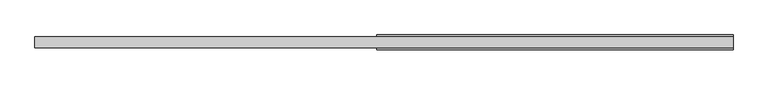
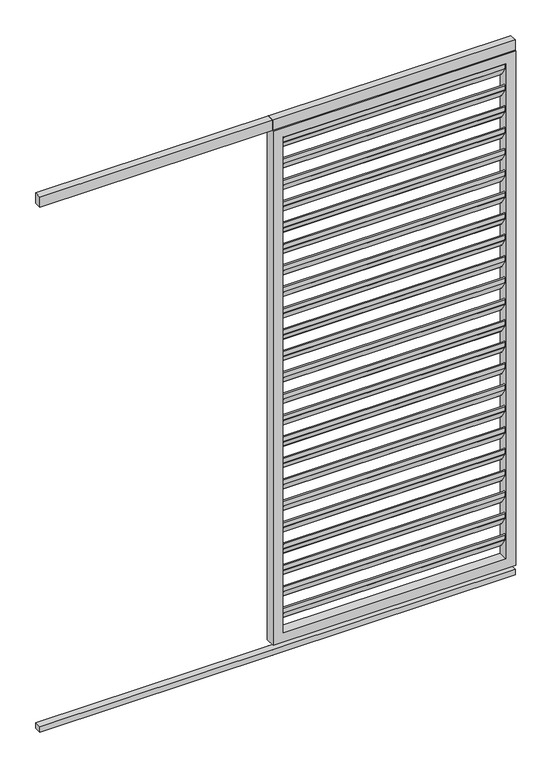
"""IFC4 building model written with IfcOpenShell, lengths in millimetres: proxy geometry, Renson_Camargue_Loggia_Paro_Aluminium : Renson_Camargue_Loggia_Paro_Aluminium."""

from ifc_helpers import new_model, si_unit, point, frame, frame_2d, origin, origin_with_axes, place, context, project, spatial, polyline, circle_curve, trimmed, segment, composite_curve, outline, extrude, source, transform, mapped, element, save


def generic_models_a1f2db59(model_context):
    return source(origin(), model_context, "Body", "SweptSolid", [
        extrude(outline(composite_curve([segment(polyline([(-10.1515804, 2164.292689), (14.3324079, 2126.5906532), (14.3324079, 2107.3412281)]), True, "CONTINUOUS"), segment(trimmed(circle_curve(frame_2d((11.3324079, 2107.3412281)), 3.0), [point((14.3324079, 2107.3412281))], [point((8.8163962, 2105.707311))], False, "CARTESIAN"), True, "CONTINUOUS"), segment(polyline([(8.8163962, 2105.707311), (-15.1836038, 2142.6640702)]), True, "CONTINUOUS"), segment(trimmed(circle_curve(frame_2d((-12.6675921, 2144.2979873)), 3.0), [point((-15.1836038, 2142.6640702))], [point((-15.6675921, 2144.2979873))], False, "CARTESIAN"), True, "CONTINUOUS"), segment(polyline([(-15.6675921, 2144.2979873), (-15.6675921, 2162.6587719)]), True, "CONTINUOUS"), segment(trimmed(circle_curve(frame_2d((-12.6675921, 2162.6587719)), 3.0), [point((-15.6675921, 2162.6587719))], [point((-10.1515804, 2164.292689))], False, "CARTESIAN"), True, "CONTINUOUS")], self_intersect=False)), frame((-442.5, 0.0, 0.0), z_axis=(1.0, 0.0, 0.0), x_axis=(0.0, 1.0, 0.0)), (0.0, 0.0, 1.0), 885.0),
        extrude(outline(composite_curve([segment(polyline([(-10.1515804, 2074.292689), (14.3324079, 2036.5906532), (14.3324079, 2017.3412281)]), True, "CONTINUOUS"), segment(trimmed(circle_curve(frame_2d((11.3324079, 2017.3412281)), 3.0), [point((14.3324079, 2017.3412281))], [point((8.8163962, 2015.707311))], False, "CARTESIAN"), True, "CONTINUOUS"), segment(polyline([(8.8163962, 2015.707311), (-15.1836038, 2052.6640702)]), True, "CONTINUOUS"), segment(trimmed(circle_curve(frame_2d((-12.6675921, 2054.2979873)), 3.0), [point((-15.1836038, 2052.6640702))], [point((-15.6675921, 2054.2979873))], False, "CARTESIAN"), True, "CONTINUOUS"), segment(polyline([(-15.6675921, 2054.2979873), (-15.6675921, 2072.6587719)]), True, "CONTINUOUS"), segment(trimmed(circle_curve(frame_2d((-12.6675921, 2072.6587719)), 3.0), [point((-15.6675921, 2072.6587719))], [point((-10.1515804, 2074.292689))], False, "CARTESIAN"), True, "CONTINUOUS")], self_intersect=False)), frame((-442.5, 0.0, 0.0), z_axis=(1.0, 0.0, 0.0), x_axis=(0.0, 1.0, 0.0)), (0.0, 0.0, 1.0), 885.0),
        extrude(outline(composite_curve([segment(polyline([(-10.1515804, 1984.292689), (14.3324079, 1946.5906532), (14.3324079, 1927.3412281)]), True, "CONTINUOUS"), segment(trimmed(circle_curve(frame_2d((11.3324079, 1927.3412281)), 3.0), [point((14.3324079, 1927.3412281))], [point((8.8163962, 1925.707311))], False, "CARTESIAN"), True, "CONTINUOUS"), segment(polyline([(8.8163962, 1925.707311), (-15.1836038, 1962.6640702)]), True, "CONTINUOUS"), segment(trimmed(circle_curve(frame_2d((-12.6675921, 1964.2979873)), 3.0), [point((-15.1836038, 1962.6640702))], [point((-15.6675921, 1964.2979873))], False, "CARTESIAN"), True, "CONTINUOUS"), segment(polyline([(-15.6675921, 1964.2979873), (-15.6675921, 1982.6587719)]), True, "CONTINUOUS"), segment(trimmed(circle_curve(frame_2d((-12.6675921, 1982.6587719)), 3.0), [point((-15.6675921, 1982.6587719))], [point((-10.1515804, 1984.292689))], False, "CARTESIAN"), True, "CONTINUOUS")], self_intersect=False)), frame((-442.5, 0.0, 0.0), z_axis=(1.0, 0.0, 0.0), x_axis=(0.0, 1.0, 0.0)), (0.0, 0.0, 1.0), 885.0),
        extrude(outline(composite_curve([segment(polyline([(-10.1515804, 1894.292689), (14.3324079, 1856.5906532), (14.3324079, 1837.3412281)]), True, "CONTINUOUS"), segment(trimmed(circle_curve(frame_2d((11.3324079, 1837.3412281)), 3.0), [point((14.3324079, 1837.3412281))], [point((8.8163962, 1835.707311))], False, "CARTESIAN"), True, "CONTINUOUS"), segment(polyline([(8.8163962, 1835.707311), (-15.1836038, 1872.6640702)]), True, "CONTINUOUS"), segment(trimmed(circle_curve(frame_2d((-12.6675921, 1874.2979873)), 3.0), [point((-15.1836038, 1872.6640702))], [point((-15.6675921, 1874.2979873))], False, "CARTESIAN"), True, "CONTINUOUS"), segment(polyline([(-15.6675921, 1874.2979873), (-15.6675921, 1892.6587719)]), True, "CONTINUOUS"), segment(trimmed(circle_curve(frame_2d((-12.6675921, 1892.6587719)), 3.0), [point((-15.6675921, 1892.6587719))], [point((-10.1515804, 1894.292689))], False, "CARTESIAN"), True, "CONTINUOUS")], self_intersect=False)), frame((-442.5, 0.0, 0.0), z_axis=(1.0, 0.0, 0.0), x_axis=(0.0, 1.0, 0.0)), (0.0, 0.0, 1.0), 885.0),
        extrude(outline(composite_curve([segment(polyline([(-10.1515804, 1804.292689), (14.3324079, 1766.5906532), (14.3324079, 1747.3412281)]), True, "CONTINUOUS"), segment(trimmed(circle_curve(frame_2d((11.3324079, 1747.3412281)), 3.0), [point((14.3324079, 1747.3412281))], [point((8.8163962, 1745.707311))], False, "CARTESIAN"), True, "CONTINUOUS"), segment(polyline([(8.8163962, 1745.707311), (-15.1836038, 1782.6640702)]), True, "CONTINUOUS"), segment(trimmed(circle_curve(frame_2d((-12.6675921, 1784.2979873)), 3.0), [point((-15.1836038, 1782.6640702))], [point((-15.6675921, 1784.2979873))], False, "CARTESIAN"), True, "CONTINUOUS"), segment(polyline([(-15.6675921, 1784.2979873), (-15.6675921, 1802.6587719)]), True, "CONTINUOUS"), segment(trimmed(circle_curve(frame_2d((-12.6675921, 1802.6587719)), 3.0), [point((-15.6675921, 1802.6587719))], [point((-10.1515804, 1804.292689))], False, "CARTESIAN"), True, "CONTINUOUS")], self_intersect=False)), frame((-442.5, 0.0, 0.0), z_axis=(1.0, 0.0, 0.0), x_axis=(0.0, 1.0, 0.0)), (0.0, 0.0, 1.0), 885.0),
        extrude(outline(composite_curve([segment(polyline([(-10.1515804, 1714.292689), (14.3324079, 1676.5906532), (14.3324079, 1657.3412281)]), True, "CONTINUOUS"), segment(trimmed(circle_curve(frame_2d((11.3324079, 1657.3412281)), 3.0), [point((14.3324079, 1657.3412281))], [point((8.8163962, 1655.707311))], False, "CARTESIAN"), True, "CONTINUOUS"), segment(polyline([(8.8163962, 1655.707311), (-15.1836038, 1692.6640702)]), True, "CONTINUOUS"), segment(trimmed(circle_curve(frame_2d((-12.6675921, 1694.2979873)), 3.0), [point((-15.1836038, 1692.6640702))], [point((-15.6675921, 1694.2979873))], False, "CARTESIAN"), True, "CONTINUOUS"), segment(polyline([(-15.6675921, 1694.2979873), (-15.6675921, 1712.6587719)]), True, "CONTINUOUS"), segment(trimmed(circle_curve(frame_2d((-12.6675921, 1712.6587719)), 3.0), [point((-15.6675921, 1712.6587719))], [point((-10.1515804, 1714.292689))], False, "CARTESIAN"), True, "CONTINUOUS")], self_intersect=False)), frame((-442.5, 0.0, 0.0), z_axis=(1.0, 0.0, 0.0), x_axis=(0.0, 1.0, 0.0)), (0.0, 0.0, 1.0), 885.0),
        extrude(outline(composite_curve([segment(polyline([(-10.1515804, 1624.292689), (14.3324079, 1586.5906532), (14.3324079, 1567.3412281)]), True, "CONTINUOUS"), segment(trimmed(circle_curve(frame_2d((11.3324079, 1567.3412281)), 3.0), [point((14.3324079, 1567.3412281))], [point((8.8163962, 1565.707311))], False, "CARTESIAN"), True, "CONTINUOUS"), segment(polyline([(8.8163962, 1565.707311), (-15.1836038, 1602.6640702)]), True, "CONTINUOUS"), segment(trimmed(circle_curve(frame_2d((-12.6675921, 1604.2979873)), 3.0), [point((-15.1836038, 1602.6640702))], [point((-15.6675921, 1604.2979873))], False, "CARTESIAN"), True, "CONTINUOUS"), segment(polyline([(-15.6675921, 1604.2979873), (-15.6675921, 1622.6587719)]), True, "CONTINUOUS"), segment(trimmed(circle_curve(frame_2d((-12.6675921, 1622.6587719)), 3.0), [point((-15.6675921, 1622.6587719))], [point((-10.1515804, 1624.292689))], False, "CARTESIAN"), True, "CONTINUOUS")], self_intersect=False)), frame((-442.5, 0.0, 0.0), z_axis=(1.0, 0.0, 0.0), x_axis=(0.0, 1.0, 0.0)), (0.0, 0.0, 1.0), 885.0),
        extrude(outline(composite_curve([segment(polyline([(-10.1515804, 1534.292689), (14.3324079, 1496.5906532), (14.3324079, 1477.3412281)]), True, "CONTINUOUS"), segment(trimmed(circle_curve(frame_2d((11.3324079, 1477.3412281)), 3.0), [point((14.3324079, 1477.3412281))], [point((8.8163962, 1475.707311))], False, "CARTESIAN"), True, "CONTINUOUS"), segment(polyline([(8.8163962, 1475.707311), (-15.1836038, 1512.6640702)]), True, "CONTINUOUS"), segment(trimmed(circle_curve(frame_2d((-12.6675921, 1514.2979873)), 3.0), [point((-15.1836038, 1512.6640702))], [point((-15.6675921, 1514.2979873))], False, "CARTESIAN"), True, "CONTINUOUS"), segment(polyline([(-15.6675921, 1514.2979873), (-15.6675921, 1532.6587719)]), True, "CONTINUOUS"), segment(trimmed(circle_curve(frame_2d((-12.6675921, 1532.6587719)), 3.0), [point((-15.6675921, 1532.6587719))], [point((-10.1515804, 1534.292689))], False, "CARTESIAN"), True, "CONTINUOUS")], self_intersect=False)), frame((-442.5, 0.0, 0.0), z_axis=(1.0, 0.0, 0.0), x_axis=(0.0, 1.0, 0.0)), (0.0, 0.0, 1.0), 885.0),
        extrude(outline(composite_curve([segment(polyline([(-10.1515804, 1444.292689), (14.3324079, 1406.5906532), (14.3324079, 1387.3412281)]), True, "CONTINUOUS"), segment(trimmed(circle_curve(frame_2d((11.3324079, 1387.3412281)), 3.0), [point((14.3324079, 1387.3412281))], [point((8.8163962, 1385.707311))], False, "CARTESIAN"), True, "CONTINUOUS"), segment(polyline([(8.8163962, 1385.707311), (-15.1836038, 1422.6640702)]), True, "CONTINUOUS"), segment(trimmed(circle_curve(frame_2d((-12.6675921, 1424.2979873)), 3.0), [point((-15.1836038, 1422.6640702))], [point((-15.6675921, 1424.2979873))], False, "CARTESIAN"), True, "CONTINUOUS"), segment(polyline([(-15.6675921, 1424.2979873), (-15.6675921, 1442.6587719)]), True, "CONTINUOUS"), segment(trimmed(circle_curve(frame_2d((-12.6675921, 1442.6587719)), 3.0), [point((-15.6675921, 1442.6587719))], [point((-10.1515804, 1444.292689))], False, "CARTESIAN"), True, "CONTINUOUS")], self_intersect=False)), frame((-442.5, 0.0, 0.0), z_axis=(1.0, 0.0, 0.0), x_axis=(0.0, 1.0, 0.0)), (0.0, 0.0, 1.0), 885.0),
        extrude(outline(composite_curve([segment(polyline([(-10.1515804, 1354.292689), (14.3324079, 1316.5906532), (14.3324079, 1297.3412281)]), True, "CONTINUOUS"), segment(trimmed(circle_curve(frame_2d((11.3324079, 1297.3412281)), 3.0), [point((14.3324079, 1297.3412281))], [point((8.8163962, 1295.707311))], False, "CARTESIAN"), True, "CONTINUOUS"), segment(polyline([(8.8163962, 1295.707311), (-15.1836038, 1332.6640702)]), True, "CONTINUOUS"), segment(trimmed(circle_curve(frame_2d((-12.6675921, 1334.2979873)), 3.0), [point((-15.1836038, 1332.6640702))], [point((-15.6675921, 1334.2979873))], False, "CARTESIAN"), True, "CONTINUOUS"), segment(polyline([(-15.6675921, 1334.2979873), (-15.6675921, 1352.6587719)]), True, "CONTINUOUS"), segment(trimmed(circle_curve(frame_2d((-12.6675921, 1352.6587719)), 3.0), [point((-15.6675921, 1352.6587719))], [point((-10.1515804, 1354.292689))], False, "CARTESIAN"), True, "CONTINUOUS")], self_intersect=False)), frame((-442.5, 0.0, 0.0), z_axis=(1.0, 0.0, 0.0), x_axis=(0.0, 1.0, 0.0)), (0.0, 0.0, 1.0), 885.0),
        extrude(outline(composite_curve([segment(polyline([(-10.1515804, 1264.292689), (14.3324079, 1226.5906532), (14.3324079, 1207.3412281)]), True, "CONTINUOUS"), segment(trimmed(circle_curve(frame_2d((11.3324079, 1207.3412281)), 3.0), [point((14.3324079, 1207.3412281))], [point((8.8163962, 1205.707311))], False, "CARTESIAN"), True, "CONTINUOUS"), segment(polyline([(8.8163962, 1205.707311), (-15.1836038, 1242.6640702)]), True, "CONTINUOUS"), segment(trimmed(circle_curve(frame_2d((-12.6675921, 1244.2979873)), 3.0), [point((-15.1836038, 1242.6640702))], [point((-15.6675921, 1244.2979873))], False, "CARTESIAN"), True, "CONTINUOUS"), segment(polyline([(-15.6675921, 1244.2979873), (-15.6675921, 1262.6587719)]), True, "CONTINUOUS"), segment(trimmed(circle_curve(frame_2d((-12.6675921, 1262.6587719)), 3.0), [point((-15.6675921, 1262.6587719))], [point((-10.1515804, 1264.292689))], False, "CARTESIAN"), True, "CONTINUOUS")], self_intersect=False)), frame((-442.5, 0.0, 0.0), z_axis=(1.0, 0.0, 0.0), x_axis=(0.0, 1.0, 0.0)), (0.0, 0.0, 1.0), 885.0),
        extrude(outline(composite_curve([segment(polyline([(-10.1515804, 1174.292689), (14.3324079, 1136.5906532), (14.3324079, 1117.3412281)]), True, "CONTINUOUS"), segment(trimmed(circle_curve(frame_2d((11.3324079, 1117.3412281)), 3.0), [point((14.3324079, 1117.3412281))], [point((8.8163962, 1115.707311))], False, "CARTESIAN"), True, "CONTINUOUS"), segment(polyline([(8.8163962, 1115.707311), (-15.1836038, 1152.6640702)]), True, "CONTINUOUS"), segment(trimmed(circle_curve(frame_2d((-12.6675921, 1154.2979873)), 3.0), [point((-15.1836038, 1152.6640702))], [point((-15.6675921, 1154.2979873))], False, "CARTESIAN"), True, "CONTINUOUS"), segment(polyline([(-15.6675921, 1154.2979873), (-15.6675921, 1172.6587719)]), True, "CONTINUOUS"), segment(trimmed(circle_curve(frame_2d((-12.6675921, 1172.6587719)), 3.0), [point((-15.6675921, 1172.6587719))], [point((-10.1515804, 1174.292689))], False, "CARTESIAN"), True, "CONTINUOUS")], self_intersect=False)), frame((-442.5, 0.0, 0.0), z_axis=(1.0, 0.0, 0.0), x_axis=(0.0, 1.0, 0.0)), (0.0, 0.0, 1.0), 885.0),
        extrude(outline(composite_curve([segment(polyline([(-10.1515804, 1084.292689), (14.3324079, 1046.5906532), (14.3324079, 1027.3412281)]), True, "CONTINUOUS"), segment(trimmed(circle_curve(frame_2d((11.3324079, 1027.3412281)), 3.0), [point((14.3324079, 1027.3412281))], [point((8.8163962, 1025.707311))], False, "CARTESIAN"), True, "CONTINUOUS"), segment(polyline([(8.8163962, 1025.707311), (-15.1836038, 1062.6640702)]), True, "CONTINUOUS"), segment(trimmed(circle_curve(frame_2d((-12.6675921, 1064.2979873)), 3.0), [point((-15.1836038, 1062.6640702))], [point((-15.6675921, 1064.2979873))], False, "CARTESIAN"), True, "CONTINUOUS"), segment(polyline([(-15.6675921, 1064.2979873), (-15.6675921, 1082.6587719)]), True, "CONTINUOUS"), segment(trimmed(circle_curve(frame_2d((-12.6675921, 1082.6587719)), 3.0), [point((-15.6675921, 1082.6587719))], [point((-10.1515804, 1084.292689))], False, "CARTESIAN"), True, "CONTINUOUS")], self_intersect=False)), frame((-442.5, 0.0, 0.0), z_axis=(1.0, 0.0, 0.0), x_axis=(0.0, 1.0, 0.0)), (0.0, 0.0, 1.0), 885.0),
        extrude(outline(composite_curve([segment(polyline([(-10.1515804, 994.292689), (14.3324079, 956.5906532), (14.3324079, 937.3412281)]), True, "CONTINUOUS"), segment(trimmed(circle_curve(frame_2d((11.3324079, 937.3412281)), 3.0), [point((14.3324079, 937.3412281))], [point((8.8163962, 935.707311))], False, "CARTESIAN"), True, "CONTINUOUS"), segment(polyline([(8.8163962, 935.707311), (-15.1836038, 972.6640702)]), True, "CONTINUOUS"), segment(trimmed(circle_curve(frame_2d((-12.6675921, 974.2979873)), 3.0), [point((-15.1836038, 972.6640702))], [point((-15.6675921, 974.2979873))], False, "CARTESIAN"), True, "CONTINUOUS"), segment(polyline([(-15.6675921, 974.2979873), (-15.6675921, 992.6587719)]), True, "CONTINUOUS"), segment(trimmed(circle_curve(frame_2d((-12.6675921, 992.6587719)), 3.0), [point((-15.6675921, 992.6587719))], [point((-10.1515804, 994.292689))], False, "CARTESIAN"), True, "CONTINUOUS")], self_intersect=False)), frame((-442.5, 0.0, 0.0), z_axis=(1.0, 0.0, 0.0), x_axis=(0.0, 1.0, 0.0)), (0.0, 0.0, 1.0), 885.0),
        extrude(outline(composite_curve([segment(polyline([(-10.1515804, 904.292689), (14.3324079, 866.5906532), (14.3324079, 847.3412281)]), True, "CONTINUOUS"), segment(trimmed(circle_curve(frame_2d((11.3324079, 847.3412281)), 3.0), [point((14.3324079, 847.3412281))], [point((8.8163962, 845.707311))], False, "CARTESIAN"), True, "CONTINUOUS"), segment(polyline([(8.8163962, 845.707311), (-15.1836038, 882.6640702)]), True, "CONTINUOUS"), segment(trimmed(circle_curve(frame_2d((-12.6675921, 884.2979873)), 3.0), [point((-15.1836038, 882.6640702))], [point((-15.6675921, 884.2979873))], False, "CARTESIAN"), True, "CONTINUOUS"), segment(polyline([(-15.6675921, 884.2979873), (-15.6675921, 902.6587719)]), True, "CONTINUOUS"), segment(trimmed(circle_curve(frame_2d((-12.6675921, 902.6587719)), 3.0), [point((-15.6675921, 902.6587719))], [point((-10.1515804, 904.292689))], False, "CARTESIAN"), True, "CONTINUOUS")], self_intersect=False)), frame((-442.5, 0.0, 0.0), z_axis=(1.0, 0.0, 0.0), x_axis=(0.0, 1.0, 0.0)), (0.0, 0.0, 1.0), 885.0),
        extrude(outline(composite_curve([segment(polyline([(-10.1515804, 814.292689), (14.3324079, 776.5906532), (14.3324079, 757.3412281)]), True, "CONTINUOUS"), segment(trimmed(circle_curve(frame_2d((11.3324079, 757.3412281)), 3.0), [point((14.3324079, 757.3412281))], [point((8.8163962, 755.707311))], False, "CARTESIAN"), True, "CONTINUOUS"), segment(polyline([(8.8163962, 755.707311), (-15.1836038, 792.6640702)]), True, "CONTINUOUS"), segment(trimmed(circle_curve(frame_2d((-12.6675921, 794.2979873)), 3.0), [point((-15.1836038, 792.6640702))], [point((-15.6675921, 794.2979873))], False, "CARTESIAN"), True, "CONTINUOUS"), segment(polyline([(-15.6675921, 794.2979873), (-15.6675921, 812.6587719)]), True, "CONTINUOUS"), segment(trimmed(circle_curve(frame_2d((-12.6675921, 812.6587719)), 3.0), [point((-15.6675921, 812.6587719))], [point((-10.1515804, 814.292689))], False, "CARTESIAN"), True, "CONTINUOUS")], self_intersect=False)), frame((-442.5, 0.0, 0.0), z_axis=(1.0, 0.0, 0.0), x_axis=(0.0, 1.0, 0.0)), (0.0, 0.0, 1.0), 885.0),
        extrude(outline(composite_curve([segment(polyline([(-10.1515804, 724.292689), (14.3324079, 686.5906532), (14.3324079, 667.3412281)]), True, "CONTINUOUS"), segment(trimmed(circle_curve(frame_2d((11.3324079, 667.3412281)), 3.0), [point((14.3324079, 667.3412281))], [point((8.8163962, 665.707311))], False, "CARTESIAN"), True, "CONTINUOUS"), segment(polyline([(8.8163962, 665.707311), (-15.1836038, 702.6640702)]), True, "CONTINUOUS"), segment(trimmed(circle_curve(frame_2d((-12.6675921, 704.2979873)), 3.0), [point((-15.1836038, 702.6640702))], [point((-15.6675921, 704.2979873))], False, "CARTESIAN"), True, "CONTINUOUS"), segment(polyline([(-15.6675921, 704.2979873), (-15.6675921, 722.6587719)]), True, "CONTINUOUS"), segment(trimmed(circle_curve(frame_2d((-12.6675921, 722.6587719)), 3.0), [point((-15.6675921, 722.6587719))], [point((-10.1515804, 724.292689))], False, "CARTESIAN"), True, "CONTINUOUS")], self_intersect=False)), frame((-442.5, 0.0, 0.0), z_axis=(1.0, 0.0, 0.0), x_axis=(0.0, 1.0, 0.0)), (0.0, 0.0, 1.0), 885.0),
        extrude(outline(composite_curve([segment(polyline([(-10.1515804, 634.292689), (14.3324079, 596.5906532), (14.3324079, 577.3412281)]), True, "CONTINUOUS"), segment(trimmed(circle_curve(frame_2d((11.3324079, 577.3412281)), 3.0), [point((14.3324079, 577.3412281))], [point((8.8163962, 575.707311))], False, "CARTESIAN"), True, "CONTINUOUS"), segment(polyline([(8.8163962, 575.707311), (-15.1836038, 612.6640702)]), True, "CONTINUOUS"), segment(trimmed(circle_curve(frame_2d((-12.6675921, 614.2979873)), 3.0), [point((-15.1836038, 612.6640702))], [point((-15.6675921, 614.2979873))], False, "CARTESIAN"), True, "CONTINUOUS"), segment(polyline([(-15.6675921, 614.2979873), (-15.6675921, 632.6587719)]), True, "CONTINUOUS"), segment(trimmed(circle_curve(frame_2d((-12.6675921, 632.6587719)), 3.0), [point((-15.6675921, 632.6587719))], [point((-10.1515804, 634.292689))], False, "CARTESIAN"), True, "CONTINUOUS")], self_intersect=False)), frame((-442.5, 0.0, 0.0), z_axis=(1.0, 0.0, 0.0), x_axis=(0.0, 1.0, 0.0)), (0.0, 0.0, 1.0), 885.0),
        extrude(outline(composite_curve([segment(polyline([(-10.1515804, 544.292689), (14.3324079, 506.5906532), (14.3324079, 487.3412281)]), True, "CONTINUOUS"), segment(trimmed(circle_curve(frame_2d((11.3324079, 487.3412281)), 3.0), [point((14.3324079, 487.3412281))], [point((8.8163962, 485.707311))], False, "CARTESIAN"), True, "CONTINUOUS"), segment(polyline([(8.8163962, 485.707311), (-15.1836038, 522.6640702)]), True, "CONTINUOUS"), segment(trimmed(circle_curve(frame_2d((-12.6675921, 524.2979873)), 3.0), [point((-15.1836038, 522.6640702))], [point((-15.6675921, 524.2979873))], False, "CARTESIAN"), True, "CONTINUOUS"), segment(polyline([(-15.6675921, 524.2979873), (-15.6675921, 542.6587719)]), True, "CONTINUOUS"), segment(trimmed(circle_curve(frame_2d((-12.6675921, 542.6587719)), 3.0), [point((-15.6675921, 542.6587719))], [point((-10.1515804, 544.292689))], False, "CARTESIAN"), True, "CONTINUOUS")], self_intersect=False)), frame((-442.5, 0.0, 0.0), z_axis=(1.0, 0.0, 0.0), x_axis=(0.0, 1.0, 0.0)), (0.0, 0.0, 1.0), 885.0),
        extrude(outline(composite_curve([segment(polyline([(-10.1515804, 454.292689), (14.3324079, 416.5906532), (14.3324079, 397.3412281)]), True, "CONTINUOUS"), segment(trimmed(circle_curve(frame_2d((11.3324079, 397.3412281)), 3.0), [point((14.3324079, 397.3412281))], [point((8.8163962, 395.707311))], False, "CARTESIAN"), True, "CONTINUOUS"), segment(polyline([(8.8163962, 395.707311), (-15.1836038, 432.6640702)]), True, "CONTINUOUS"), segment(trimmed(circle_curve(frame_2d((-12.6675921, 434.2979873)), 3.0), [point((-15.1836038, 432.6640702))], [point((-15.6675921, 434.2979873))], False, "CARTESIAN"), True, "CONTINUOUS"), segment(polyline([(-15.6675921, 434.2979873), (-15.6675921, 452.6587719)]), True, "CONTINUOUS"), segment(trimmed(circle_curve(frame_2d((-12.6675921, 452.6587719)), 3.0), [point((-15.6675921, 452.6587719))], [point((-10.1515804, 454.292689))], False, "CARTESIAN"), True, "CONTINUOUS")], self_intersect=False)), frame((-442.5, 0.0, 0.0), z_axis=(1.0, 0.0, 0.0), x_axis=(0.0, 1.0, 0.0)), (0.0, 0.0, 1.0), 885.0),
        extrude(outline(composite_curve([segment(polyline([(-10.1515804, 364.292689), (14.3324079, 326.5906532), (14.3324079, 307.3412281)]), True, "CONTINUOUS"), segment(trimmed(circle_curve(frame_2d((11.3324079, 307.3412281)), 3.0), [point((14.3324079, 307.3412281))], [point((8.8163962, 305.707311))], False, "CARTESIAN"), True, "CONTINUOUS"), segment(polyline([(8.8163962, 305.707311), (-15.1836038, 342.6640702)]), True, "CONTINUOUS"), segment(trimmed(circle_curve(frame_2d((-12.6675921, 344.2979873)), 3.0), [point((-15.1836038, 342.6640702))], [point((-15.6675921, 344.2979873))], False, "CARTESIAN"), True, "CONTINUOUS"), segment(polyline([(-15.6675921, 344.2979873), (-15.6675921, 362.6587719)]), True, "CONTINUOUS"), segment(trimmed(circle_curve(frame_2d((-12.6675921, 362.6587719)), 3.0), [point((-15.6675921, 362.6587719))], [point((-10.1515804, 364.292689))], False, "CARTESIAN"), True, "CONTINUOUS")], self_intersect=False)), frame((-442.5, 0.0, 0.0), z_axis=(1.0, 0.0, 0.0), x_axis=(0.0, 1.0, 0.0)), (0.0, 0.0, 1.0), 885.0),
        extrude(outline(composite_curve([segment(polyline([(-10.1515804, 274.292689), (14.3324079, 236.5906532), (14.3324079, 217.3412281)]), True, "CONTINUOUS"), segment(trimmed(circle_curve(frame_2d((11.3324079, 217.3412281)), 3.0), [point((14.3324079, 217.3412281))], [point((8.8163962, 215.707311))], False, "CARTESIAN"), True, "CONTINUOUS"), segment(polyline([(8.8163962, 215.707311), (-15.1836038, 252.6640702)]), True, "CONTINUOUS"), segment(trimmed(circle_curve(frame_2d((-12.6675921, 254.2979873)), 3.0), [point((-15.1836038, 252.6640702))], [point((-15.6675921, 254.2979873))], False, "CARTESIAN"), True, "CONTINUOUS"), segment(polyline([(-15.6675921, 254.2979873), (-15.6675921, 272.6587719)]), True, "CONTINUOUS"), segment(trimmed(circle_curve(frame_2d((-12.6675921, 272.6587719)), 3.0), [point((-15.6675921, 272.6587719))], [point((-10.1515804, 274.292689))], False, "CARTESIAN"), True, "CONTINUOUS")], self_intersect=False)), frame((-442.5, 0.0, 0.0), z_axis=(1.0, 0.0, 0.0), x_axis=(0.0, 1.0, 0.0)), (0.0, 0.0, 1.0), 885.0),
        extrude(outline(composite_curve([segment(polyline([(-10.1515804, 184.292689), (14.3324079, 146.5906532), (14.3324079, 127.3412281)]), True, "CONTINUOUS"), segment(trimmed(circle_curve(frame_2d((11.3324079, 127.3412281)), 3.0), [point((14.3324079, 127.3412281))], [point((8.8163962, 125.707311))], False, "CARTESIAN"), True, "CONTINUOUS"), segment(polyline([(8.8163962, 125.707311), (-15.1836038, 162.6640702)]), True, "CONTINUOUS"), segment(trimmed(circle_curve(frame_2d((-12.6675921, 164.2979873)), 3.0), [point((-15.1836038, 162.6640702))], [point((-15.6675921, 164.2979873))], False, "CARTESIAN"), True, "CONTINUOUS"), segment(polyline([(-15.6675921, 164.2979873), (-15.6675921, 182.6587719)]), True, "CONTINUOUS"), segment(trimmed(circle_curve(frame_2d((-12.6675921, 182.6587719)), 3.0), [point((-15.6675921, 182.6587719))], [point((-10.1515804, 184.292689))], False, "CARTESIAN"), True, "CONTINUOUS")], self_intersect=False)), frame((-442.5, 0.0, 0.0), z_axis=(1.0, 0.0, 0.0), x_axis=(0.0, 1.0, 0.0)), (0.0, 0.0, 1.0), 885.0),
        extrude(outline(polyline([(482.5, -15.0), (-1407.5, -15.0), (-1407.5, 15.0), (482.5, 15.0), (482.5, -15.0)])), frame((0.0, 0.0, 2207.7138321), z_axis=(0.0, 0.0, 1.0), x_axis=(1.0, 0.0, 0.0)), (0.0, 0.0, 1.0), 42.2861679),
        extrude(outline(polyline([(-481.5, -15.0), (-482.5, -15.0), (-482.5, 15.0), (-481.5, 15.0), (-481.5, -15.0)])), frame((0.0, 0.0, 2207.7138321), z_axis=(0.0, 0.0, 1.0), x_axis=(1.0, 0.0, 0.0)), (0.0, 0.0, 1.0), 42.2861679),
        extrude(outline(polyline([(482.5, 13.0), (482.5, -14.0), (-1407.5, -14.0), (-1407.5, 13.0), (482.5, 13.0)])), origin_with_axes(), (0.0, 0.0, 1.0), 23.0),
        extrude(outline(polyline([(-481.5, 13.0), (-481.5, -14.0), (-482.5, -14.0), (-482.5, 13.0), (-481.5, 13.0)])), origin_with_axes(), (0.0, 0.0, 1.0), 23.0),
        extrude(outline(polyline([(2207.7138321, 482.5), (2207.7138321, -482.5), (45.0, -482.5), (45.0, 482.5), (2207.7138321, 482.5)]), holes=[polyline([(2167.7138321, -442.5), (2167.7138321, 442.5), (85.0, 442.5), (85.0, -442.5), (2167.7138321, -442.5)])]), frame((0.0, -20.0, 0.0), z_axis=(0.0, 1.0, 0.0), x_axis=(0.0, 0.0, 1.0)), (0.0, 0.0, 1.0), 40.0),
    ])


if __name__ == "__main__":
    model = new_model("IFC4")
    model_context = context("Model", 3, world=origin())
    ifc_project = project(units=[si_unit("LENGTHUNIT", "METRE", prefix="MILLI")], contexts=[model_context])
    site = spatial("IfcSite", under=ifc_project)
    building = spatial("IfcBuilding", under=site)
    placement = place(None, origin())
    generic_models_shape = generic_models_a1f2db59(model_context)
    element("IfcBuildingElementProxy", 1, Name="Renson_Camargue_Loggia_Paro_Aluminium : Renson_Camargue_Loggia_Paro_Aluminium", ObjectType="Renson_Camargue_Loggia_Paro_Aluminium : Renson_Camargue_Loggia_Paro_Aluminium", at=placement, inside=building, context=model_context, shape_type="MappedRepresentation", body=[
        mapped(generic_models_shape, transform((0.0, 0.0, 0.0), x_axis=(1.0, 0.0, 0.0), y_axis=(0.0, 1.0, 0.0), z_axis=(0.0, 0.0, 1.0))),
    ])
    save(model, "model.ifc")
